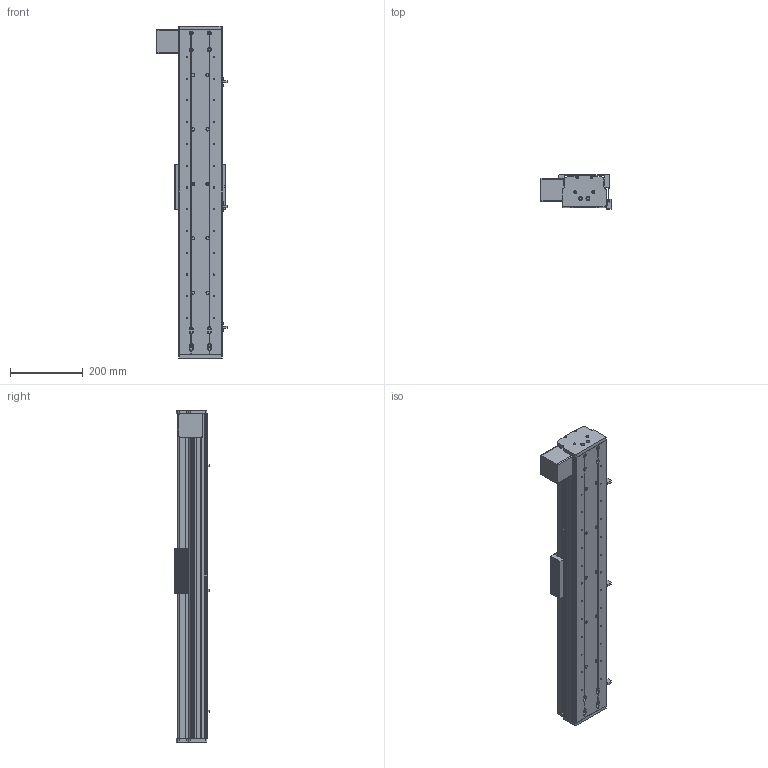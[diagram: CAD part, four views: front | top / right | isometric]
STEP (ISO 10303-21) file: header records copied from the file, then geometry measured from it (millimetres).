
FILE_DESCRIPTION (( 'STEP AP214' ), '1' );
FILE_NAME ('CF120B-D-600-FWL.STEP', '2020-01-15T07:26:26', ( '微软用户' ), ( '微软中国' ), 'SwSTEP 2.0', 'SolidWorks 2016', '' );
FILE_SCHEMA (( 'AUTOMOTIVE_DESIGN' ));
Length unit declared in the file: millimetre
Products named in the file (14): CF120B-D-600-FWL; 嫖萇羲壽; 75-86-95癹弇羲壽覜茼え; 6060-3232源臏奪-植雄釱; 6060-3232源臏奪-萇儂釱; 6060-3232源臏奪-翋雄釱; CF120B耜啣萇儂傷; CF120B耜啣; CF120B裔啣-600; CF120B賑雄啣; CF120-B賑雄輸; EGR15絳寢-600; EGH-15-CABZnew; CF120B臏倰第-600
Assembly tree (19 placements, depth 2):
  CF120B-D-600-FWL
    CF120B臏倰第-600
    EGH-15-CABZnew  x4
    EGR15絳寢-600  x2
    CF120-B賑雄輸
    CF120B賑雄啣
    CF120B裔啣-600
    CF120B耜啣
    CF120B耜啣萇儂傷
    6060-3232源臏奪-翋雄釱
    6060-3232源臏奪-萇儂釱
    6060-3232源臏奪-植雄釱
    75-86-95癹弇羲壽覜茼え
    嫖萇羲壽  x3
Bounding box: 193.1 x 93.85 x 915 mm (x, y, z)
Volume: 4004019 mm3; surface area: 1385073.1 mm2
Topology: 15 solids, 67 shells, 7355 faces, 27846 edges, 19164 vertices
Faces by surface type: plane 3616, bspline 2348, cylinder 1039, cone 128, torus 128, sphere 96
Entity records: 133060 total; most frequent: CARTESIAN_POINT 42366, ORIENTED_EDGE 15780, DIRECTION 12573, EDGE_CURVE 9014, VERTEX_POINT 6167, LINE 5293, VECTOR 5293, AXIS2_PLACEMENT_3D 3640
